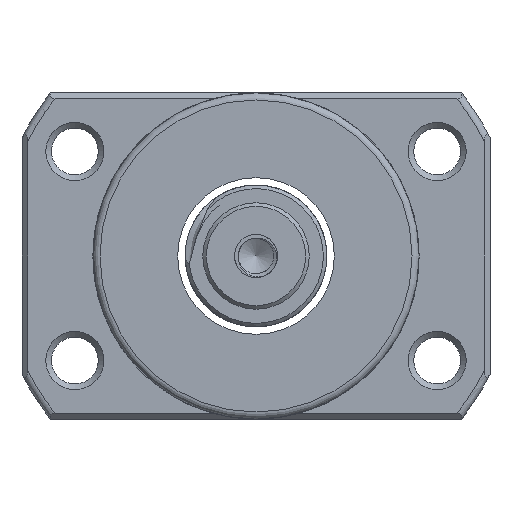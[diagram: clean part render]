
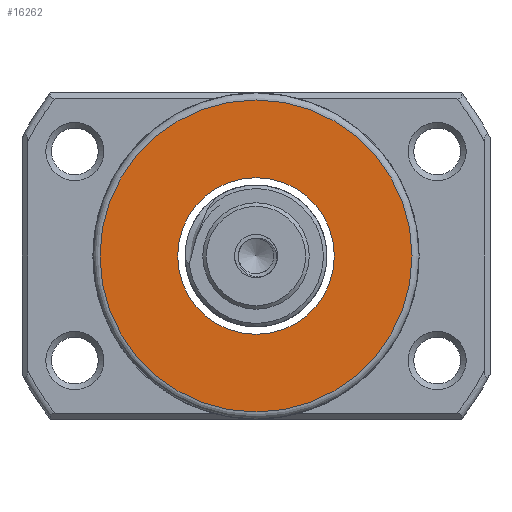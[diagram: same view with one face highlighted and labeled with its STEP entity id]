
A CAD part, left-side view. The second image highlights one B-rep face of the part: STEP entity #16262.
In plain terms, the highlighted planar face has unit normal (-1, 0, 0).
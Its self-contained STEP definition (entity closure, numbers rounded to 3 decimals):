
#384 = DIRECTION ( 'NONE',  ( -1., 0., 0. ) ) ;
#825 = FACE_BOUND ( 'NONE', #13394, .T. ) ;
#1304 = CARTESIAN_POINT ( 'NONE',  ( -53.324, 0., 0. ) ) ;
#1837 = CARTESIAN_POINT ( 'NONE',  ( -53.324, 0., 22. ) ) ;
#2055 = PLANE ( 'NONE',  #20642 ) ;
#3595 = VERTEX_POINT ( 'NONE', #17063 ) ;
#3888 = CIRCLE ( 'NONE', #4957, 11.05 ) ;
#4297 = DIRECTION ( 'NONE',  ( 0., 0., 1. ) ) ;
#4957 = AXIS2_PLACEMENT_3D ( 'NONE', #6204, #19529, #4297 ) ;
#6204 = CARTESIAN_POINT ( 'NONE',  ( -53.324, 0., 0. ) ) ;
#7185 = EDGE_CURVE ( 'NONE', #3595, #3595, #3888, .T. ) ;
#7606 = CARTESIAN_POINT ( 'NONE',  ( -53.324, 11.05, 0. ) ) ;
#7744 = DIRECTION ( 'NONE',  ( -1., 0., 0. ) ) ;
#8263 = EDGE_LOOP ( 'NONE', ( #21784 ) ) ;
#9045 = EDGE_CURVE ( 'NONE', #13618, #13618, #11730, .T. ) ;
#11730 = CIRCLE ( 'NONE', #19903, 22. ) ;
#13394 = EDGE_LOOP ( 'NONE', ( #19447 ) ) ;
#13618 = VERTEX_POINT ( 'NONE', #1837 ) ;
#14387 = DIRECTION ( 'NONE',  ( 0., 0., 1. ) ) ;
#16052 = FACE_OUTER_BOUND ( 'NONE', #8263, .T. ) ;
#16262 = ADVANCED_FACE ( 'NONE', ( #16052, #825 ), #2055, .T. ) ;
#16637 = DIRECTION ( 'NONE',  ( 0., 0., 1. ) ) ;
#17063 = CARTESIAN_POINT ( 'NONE',  ( -53.324, 0., 11.05 ) ) ;
#19447 = ORIENTED_EDGE ( 'NONE', *, *, #7185, .F. ) ;
#19529 = DIRECTION ( 'NONE',  ( -1., 0., 0. ) ) ;
#19903 = AXIS2_PLACEMENT_3D ( 'NONE', #1304, #7744, #16637 ) ;
#20642 = AXIS2_PLACEMENT_3D ( 'NONE', #7606, #384, #14387 ) ;
#21784 = ORIENTED_EDGE ( 'NONE', *, *, #9045, .T. ) ;
